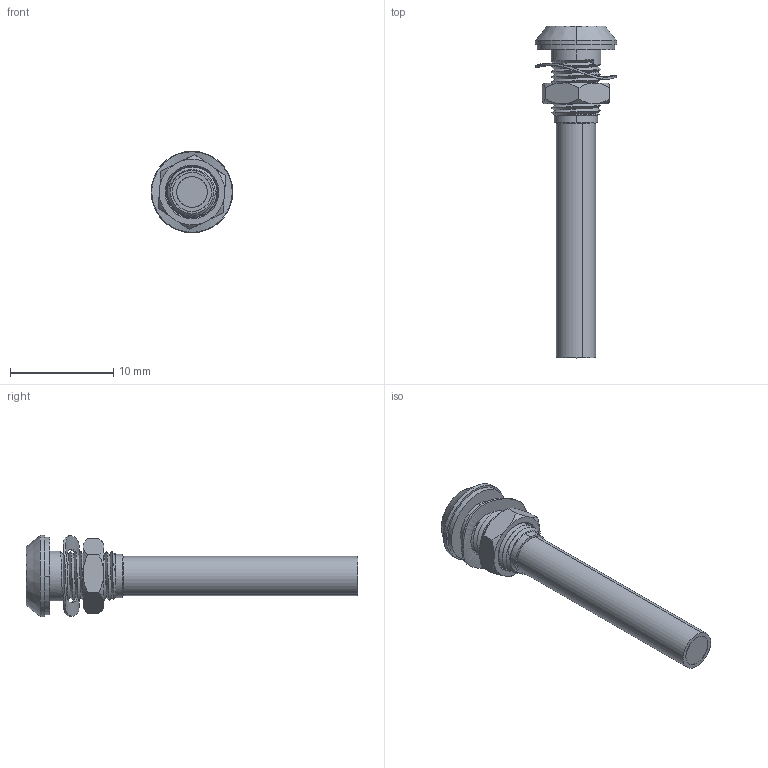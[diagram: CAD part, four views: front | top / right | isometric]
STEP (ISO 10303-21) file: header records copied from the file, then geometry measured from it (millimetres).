
FILE_DESCRIPTION (( 'STEP AP214' ), '1' );
FILE_NAME ('602-000-00-53.STEP', '2022-01-11T08:36:13', ( '' ), ( '' ), 'SwSTEP 2.0', 'SolidWorks 2021', '' );
FILE_SCHEMA (( 'AUTOMOTIVE_DESIGN' ));
Length unit declared in the file: millimetre
Products named in the file (8): 5mm wavy washer; COM4316_1mm shorter; HeatShrink_-53; 602-000-00-53; COM2421; COM10992; COM3575 - COM3579_COM3579; PLP2-1000_-53
Assembly tree (7 placements, depth 2):
  602-000-00-53
    COM10992
    5mm wavy washer
    COM2421
    PLP2-1000_-53
    COM3575 - COM3579_COM3579
    COM4316_1mm shorter
    HeatShrink_-53
Bounding box: 7.9 x 32.2 x 7.9 mm (x, y, z)
Volume: 456.8 mm3; surface area: 1485.1 mm2
Topology: 7 solids, 7 shells, 171 faces, 378 edges, 238 vertices
Faces by surface type: cylinder 75, plane 35, torus 32, cone 25, bspline 4
Entity records: 6602 total; most frequent: CARTESIAN_POINT 2532, DIRECTION 839, ORIENTED_EDGE 754, EDGE_CURVE 377, AXIS2_PLACEMENT_3D 367, VERTEX_POINT 236, EDGE_LOOP 197, CIRCLE 190
